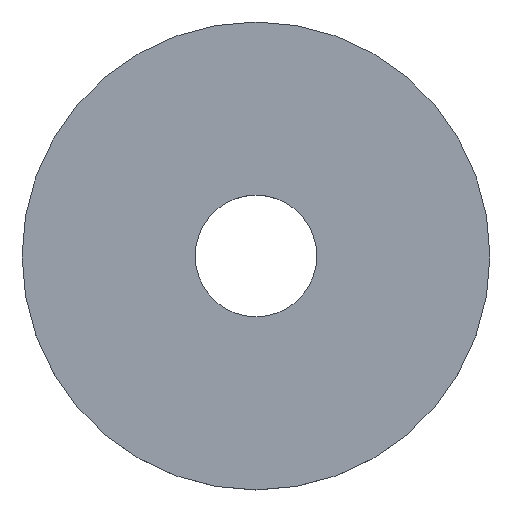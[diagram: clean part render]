
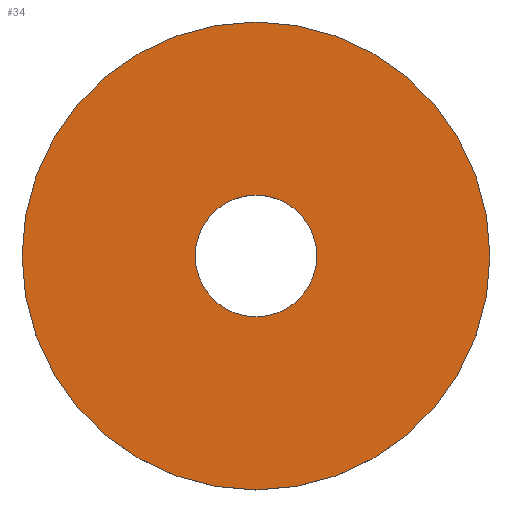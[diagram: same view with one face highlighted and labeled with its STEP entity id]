
A CAD part, top view. The second image highlights one B-rep face of the part: STEP entity #34.
In plain terms, the highlighted planar face has unit normal (0, 0, 1).
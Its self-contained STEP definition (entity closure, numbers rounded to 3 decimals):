
#6 = CARTESIAN_POINT ( 'NONE',  ( 0., 0., 0.75 ) ) ;
#11 = VERTEX_POINT ( 'NONE', #130 ) ;
#18 = CIRCLE ( 'NONE', #158, 12.5 ) ;
#22 = EDGE_LOOP ( 'NONE', ( #115, #236 ) ) ;
#33 = CIRCLE ( 'NONE', #241, 3.25 ) ;
#34 = ADVANCED_FACE ( 'NONE', ( #184, #86 ), #129, .T. ) ;
#46 = EDGE_CURVE ( 'NONE', #139, #11, #210, .T. ) ;
#48 = DIRECTION ( 'NONE',  ( 0., 0., 1. ) ) ;
#49 = VERTEX_POINT ( 'NONE', #230 ) ;
#68 = CIRCLE ( 'NONE', #126, 3.25 ) ;
#71 = DIRECTION ( 'NONE',  ( 0., 0., 1. ) ) ;
#75 = DIRECTION ( 'NONE',  ( 0., 0., 1. ) ) ;
#85 = EDGE_LOOP ( 'NONE', ( #133, #151 ) ) ;
#86 = FACE_BOUND ( 'NONE', #85, .T. ) ;
#88 = CARTESIAN_POINT ( 'NONE',  ( 0., 0., 0.75 ) ) ;
#97 = CARTESIAN_POINT ( 'NONE',  ( 12.5, 0., 0.75 ) ) ;
#106 = VERTEX_POINT ( 'NONE', #212 ) ;
#113 = DIRECTION ( 'NONE',  ( 1., 0., 0. ) ) ;
#115 = ORIENTED_EDGE ( 'NONE', *, *, #123, .T. ) ;
#123 = EDGE_CURVE ( 'NONE', #11, #139, #18, .T. ) ;
#126 = AXIS2_PLACEMENT_3D ( 'NONE', #186, #136, #200 ) ;
#129 = PLANE ( 'NONE',  #213 ) ;
#130 = CARTESIAN_POINT ( 'NONE',  ( -12.5, 0., 0.75 ) ) ;
#133 = ORIENTED_EDGE ( 'NONE', *, *, #211, .F. ) ;
#136 = DIRECTION ( 'NONE',  ( 0., 0., 1. ) ) ;
#139 = VERTEX_POINT ( 'NONE', #97 ) ;
#151 = ORIENTED_EDGE ( 'NONE', *, *, #169, .F. ) ;
#158 = AXIS2_PLACEMENT_3D ( 'NONE', #221, #75, #113 ) ;
#169 = EDGE_CURVE ( 'NONE', #49, #106, #68, .T. ) ;
#179 = CARTESIAN_POINT ( 'NONE',  ( 0., 0., 0.75 ) ) ;
#184 = FACE_OUTER_BOUND ( 'NONE', #22, .T. ) ;
#186 = CARTESIAN_POINT ( 'NONE',  ( 0., 0., 0.75 ) ) ;
#195 = DIRECTION ( 'NONE',  ( 1., 0., 0. ) ) ;
#196 = DIRECTION ( 'NONE',  ( 1., 0., 0. ) ) ;
#199 = DIRECTION ( 'NONE',  ( 1., 0., 0. ) ) ;
#200 = DIRECTION ( 'NONE',  ( 1., 0., 0. ) ) ;
#210 = CIRCLE ( 'NONE', #249, 12.5 ) ;
#211 = EDGE_CURVE ( 'NONE', #106, #49, #33, .T. ) ;
#212 = CARTESIAN_POINT ( 'NONE',  ( -3.25, 0., 0.75 ) ) ;
#213 = AXIS2_PLACEMENT_3D ( 'NONE', #179, #71, #195 ) ;
#217 = DIRECTION ( 'NONE',  ( 0., 0., 1. ) ) ;
#221 = CARTESIAN_POINT ( 'NONE',  ( 0., 0., 0.75 ) ) ;
#230 = CARTESIAN_POINT ( 'NONE',  ( 3.25, 0., 0.75 ) ) ;
#236 = ORIENTED_EDGE ( 'NONE', *, *, #46, .T. ) ;
#241 = AXIS2_PLACEMENT_3D ( 'NONE', #6, #217, #199 ) ;
#249 = AXIS2_PLACEMENT_3D ( 'NONE', #88, #48, #196 ) ;
